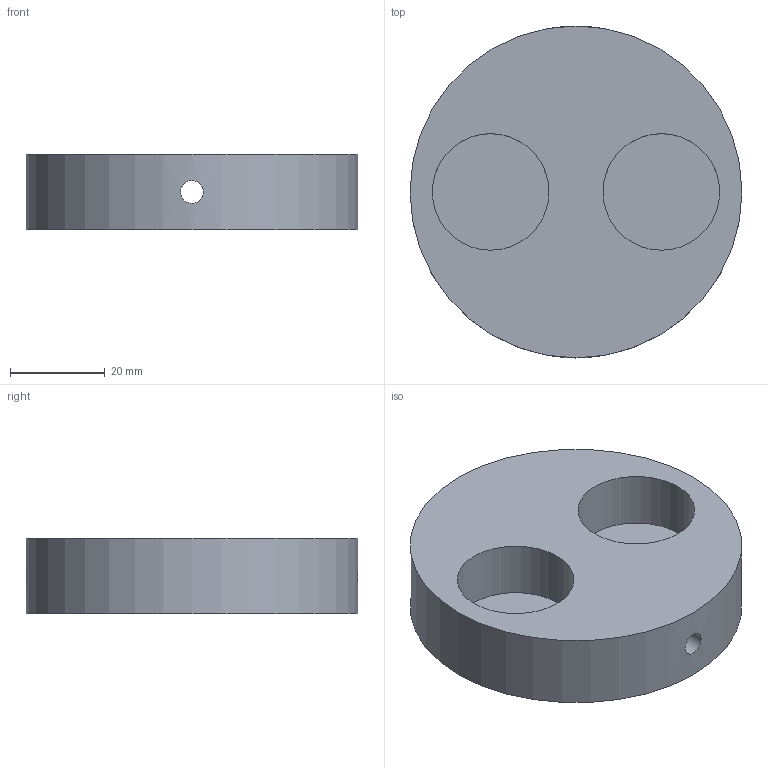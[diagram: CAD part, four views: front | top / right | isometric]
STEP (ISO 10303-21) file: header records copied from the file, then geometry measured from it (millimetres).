
FILE_DESCRIPTION(('Open CASCADE Model'),'2;1');
FILE_NAME('Open CASCADE Shape Model','2026-10-12T22:10:18',('Author'),( 'Open CASCADE'),'Open CASCADE STEP processor 7.9','Open CASCADE 7.9' ,'Unknown');
FILE_SCHEMA(('AUTOMOTIVE_DESIGN { 1 0 10303 214 1 1 1 1 }'));
Length unit declared in the file: millimetre
Products named in the file (1): Open CASCADE STEP translator 7.9 31
Bounding box: 70 x 70 x 16 mm (x, y, z)
Volume: 48902.8 mm3; surface area: 14088.4 mm2
Topology: 1 solids, 1 shells, 8 faces, 12 edges, 8 vertices
Faces by surface type: cylinder 4, plane 4
Full cylindrical faces by diameter (mm): 4.8 x1, 24.6 x2, 70 x1
Entity records: 682 total; most frequent: CARTESIAN_POINT 395, DIRECTION 54, ORIENTED_EDGE 24, PCURVE 24, DEFINITIONAL_REPRESENTATION 24, LINE 18, VECTOR 18, AXIS2_PLACEMENT_3D 15
